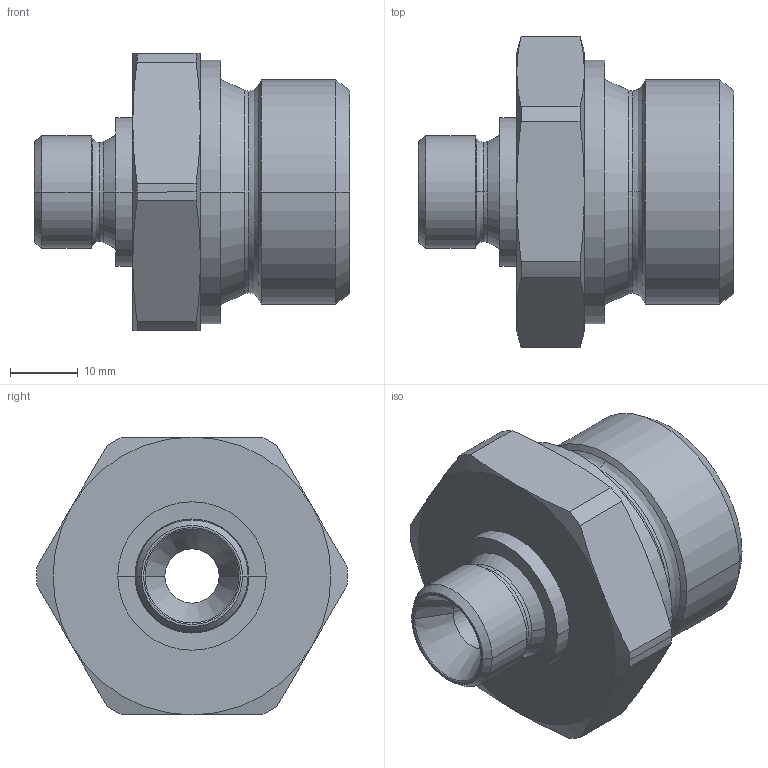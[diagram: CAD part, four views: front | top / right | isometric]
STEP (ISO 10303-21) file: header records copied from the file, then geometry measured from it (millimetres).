
FILE_DESCRIPTION((''),'2;1');
FILE_NAME('300536.stp','2006-09-11T08:16:59',(''),(''),'AutoCAD STEP 2000i','AutoCAD 2000i',', , ');
FILE_SCHEMA(('CONFIG_CONTROL_DESIGN'));
Length unit declared in the file: millimetre
Products named in the file (2): 300536.0; CHIAVE SMUSSATA#0
Assembly tree (1 placements, depth 2):
  300536.0
    CHIAVE SMUSSATA#0
Bounding box: 46.5 x 45.9 x 41 mm (x, y, z)
Volume: 24586.9 mm3; surface area: 9309.3 mm2
Topology: 1 solids, 1 shells, 76 faces, 178 edges, 106 vertices
Faces by surface type: cone 34, cylinder 20, plane 10, bspline 8, torus 4
Entity records: 2593 total; most frequent: CARTESIAN_POINT 762, DIRECTION 400, ORIENTED_EDGE 356, EDGE_CURVE 178, AXIS2_PLACEMENT_3D 176, VERTEX_POINT 106, CIRCLE 106, EDGE_LOOP 80
